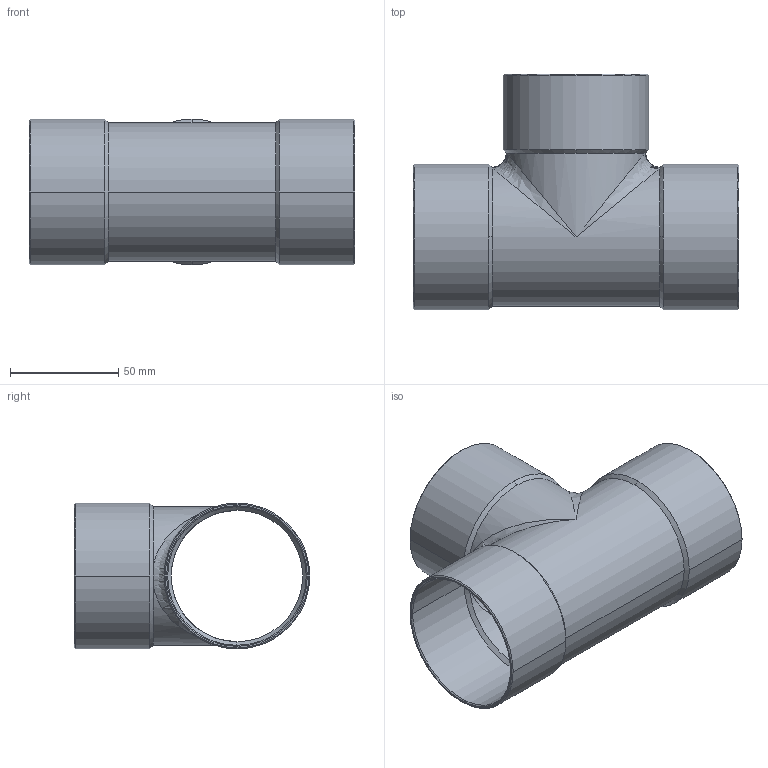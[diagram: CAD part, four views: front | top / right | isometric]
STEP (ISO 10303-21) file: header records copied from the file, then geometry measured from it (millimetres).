
FILE_DESCRIPTION((''),'2;1');
FILE_NAME('P:\Bouwmaten\z-maattekeningen 3D\5000\5130\d\513064.stp','2005-10-19T08:47:11',('Kris'),(''),'Autodesk Inventor 8','Autodesk Inventor 8','');
FILE_SCHEMA(('AUTOMOTIVE_DESIGN { 1 0 10303 214 1 1 1 1 }'));
Length unit declared in the file: millimetre
Products named in the file (1): 513064
Bounding box: 150.5 x 108.95 x 67.4 mm (x, y, z)
Volume: 64029.2 mm3; surface area: 76192.7 mm2
Topology: 1 solids, 1 shells, 51 faces, 142 edges, 84 vertices
Faces by surface type: cone 24, cylinder 20, bspline 4, plane 3
Entity records: 2099 total; most frequent: CARTESIAN_POINT 750, DIRECTION 314, ORIENTED_EDGE 268, AXIS2_PLACEMENT_3D 136, EDGE_CURVE 134, VERTEX_POINT 84, CIRCLE 72, EDGE_LOOP 54
